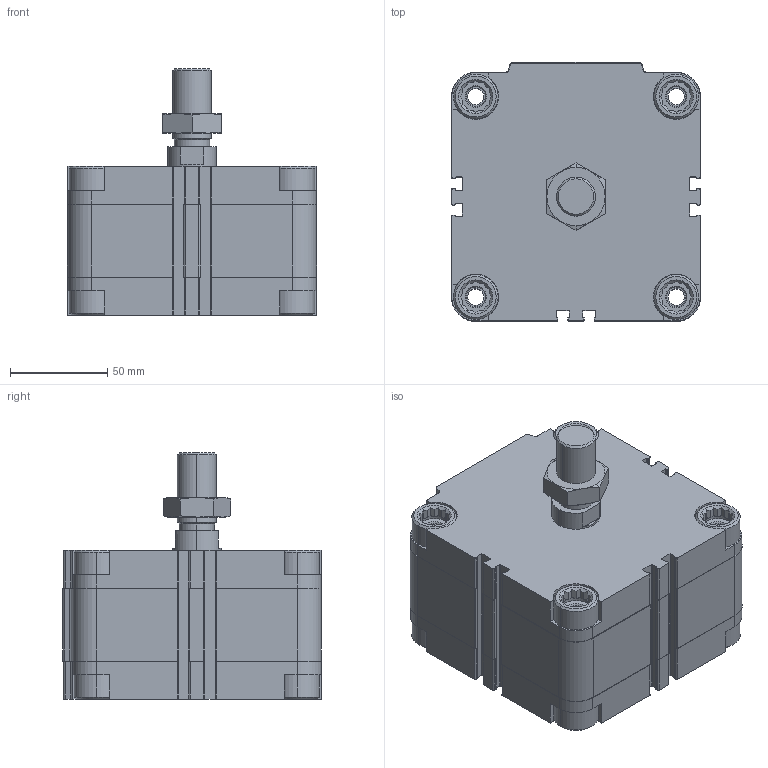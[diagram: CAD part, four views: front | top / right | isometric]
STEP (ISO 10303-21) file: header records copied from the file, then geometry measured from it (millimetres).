
FILE_DESCRIPTION (( 'STEP AP203' ), '1' );
FILE_NAME ('CDVU100-10.STEP', '2020-03-19T11:40:49', ( '' ), ( '' ), 'SwSTEP 2.0', 'SolidWorks 2019', '' );
FILE_SCHEMA (( 'CONFIG_CONTROL_DESIGN' ));
Length unit declared in the file: millimetre
Products named in the file (1): CDVU100-10
Bounding box: 128 x 133 x 126.5 mm (x, y, z)
Volume: 1155171.4 mm3; surface area: 148271.8 mm2
Topology: 3 solids, 3 shells, 675 faces, 1816 edges, 1190 vertices
Faces by surface type: plane 397, cylinder 208, cone 70
Entity records: 21767 total; most frequent: CARTESIAN_POINT 4686, ORIENTED_EDGE 3624, DIRECTION 3460, EDGE_CURVE 1812, VERTEX_POINT 1190, AXIS2_PLACEMENT_3D 1176, LINE 1108, VECTOR 1108
